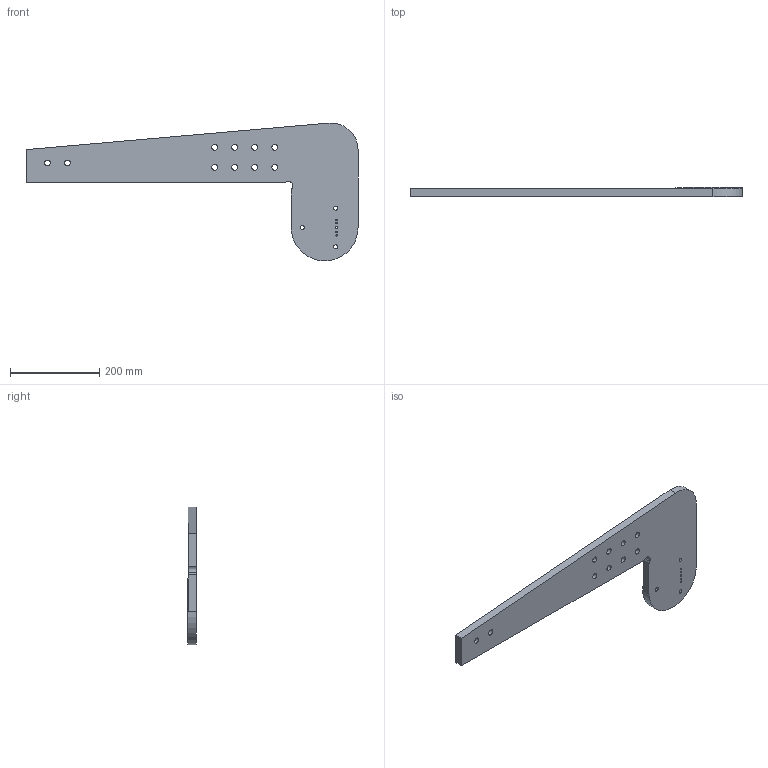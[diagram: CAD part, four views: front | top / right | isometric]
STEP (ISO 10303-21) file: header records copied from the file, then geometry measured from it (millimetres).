
FILE_DESCRIPTION(/* description */ (''),/* implementation_level */ '2;1');
FILE_NAME(/* name */ 'C:\Users\strothej\Documents\ActualDocuments\MicroscopeParts\TwoPhotonSystem\ScanningMechanics\v34\Drawings\Support_Pivot_Arm_Mirror.stp',/* time_stamp */ '2017-09-22T10:10:37-07:00',/* author */ ('strothej'),/* organization */ (''),/* preprocessor_version */ 'ST-DEVELOPER v16.1',/* originating_system */ 'Autodesk Inventor 2016',/* authorisation */ '');
FILE_SCHEMA (('AUTOMOTIVE_DESIGN { 1 0 10303 214 3 1 1 }'));
Length unit declared in the file: millimetre
Products named in the file (1): Support_Pivot_Arm_Mirror
Bounding box: 745.5 x 20 x 309.56 mm (x, y, z)
Volume: 1782249.1 mm3; surface area: 259914.4 mm2
Topology: 1 solids, 1 shells, 83 faces, 229 edges, 152 vertices
Faces by surface type: cylinder 50, cone 19, plane 14
Full cylindrical faces by diameter (mm): 3 x3, 3.242 x2, 4.917 x19, 5 x1, 9 x3, 13 x10, 75 x1, 150 x1
Entity records: 2156 total; most frequent: DIRECTION 402, CARTESIAN_POINT 332, ORIENTED_EDGE 266, AXIS2_PLACEMENT_3D 185, EDGE_LOOP 182, EDGE_CURVE 133, VERTEX_POINT 115, CIRCLE 101
